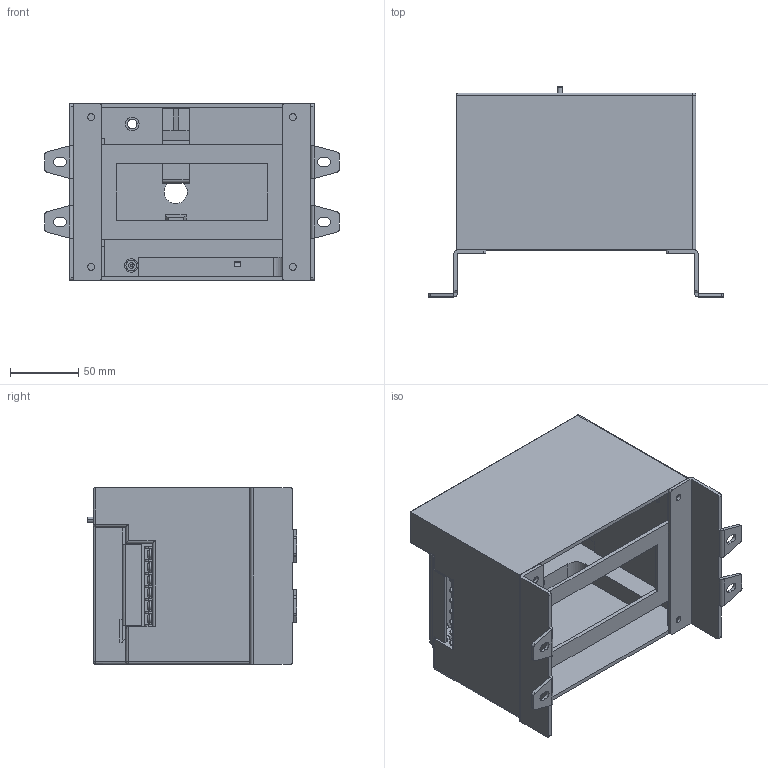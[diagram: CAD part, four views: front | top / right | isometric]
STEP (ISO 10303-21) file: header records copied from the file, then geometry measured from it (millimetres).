
FILE_DESCRIPTION (( 'STEP AP203' ), '1' );
FILE_NAME ('萇紱TGM1N-400-630ZPT.STEP', '2026-06-11T02:38:17', ( 'Windows 蚚誧' ), ( 'Microsoft' ), 'SwSTEP 2.0', 'SolidWorks 2022', '' );
FILE_SCHEMA (( 'CONFIG_CONTROL_DESIGN' ));
Length unit declared in the file: millimetre
Products named in the file (8): 萇紱TGM1N-400-630ZPT; CM1-400L 褐殤ヶ綴眈肮; TGM1N-400-630俋褲; 諉盄湮傷赽; TGM1N-630軞儂殤A; 萇紱TGM1N-400-630ZPT_1; CD2400A苤綻簽; TGM1N-800 萇紱俋倛(1)
Assembly tree (8 placements, depth 3):
  萇紱TGM1N-400-630ZPT
    TGM1N-800 萇紱俋倛(1)
    萇紱TGM1N-400-630ZPT_1
      CM1-400L 褐殤ヶ綴眈肮  x2
      TGM1N-630軞儂殤A
      CD2400A苤綻簽
      TGM1N-400-630俋褲
    諉盄湮傷赽
Bounding box: 216.4 x 154.3 x 130 mm (x, y, z)
Volume: 413636.6 mm3; surface area: 295150 mm2
Topology: 9 solids, 9 shells, 1250 faces, 3363 edges, 2214 vertices
Faces by surface type: plane 733, bspline 269, cylinder 208, torus 27, cone 12, sphere 1
Entity records: 48245 total; most frequent: CARTESIAN_POINT 21500, ORIENTED_EDGE 5810, DIRECTION 4527, EDGE_CURVE 2905, VECTOR 1925, LINE 1925, VERTEX_POINT 1912, AXIS2_PLACEMENT_3D 1301
